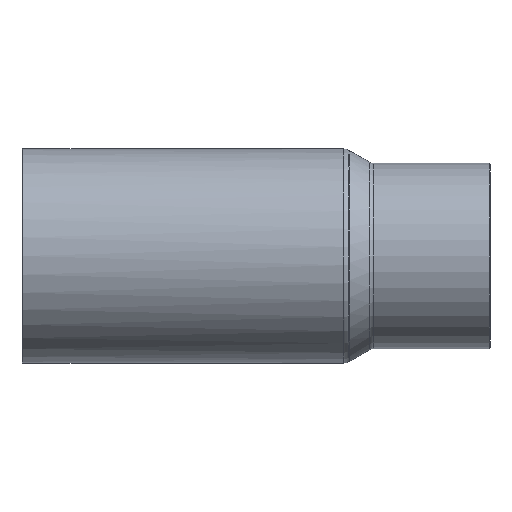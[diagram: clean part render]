
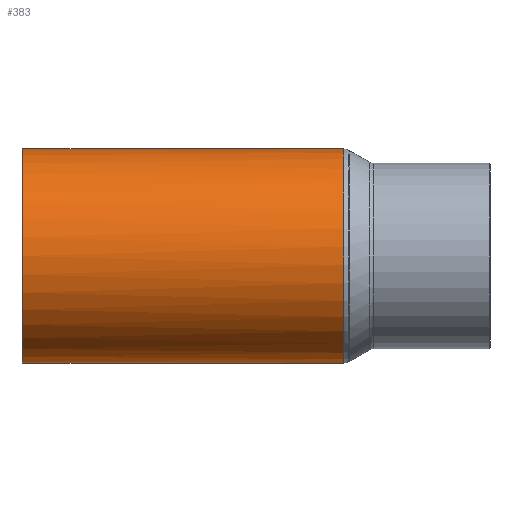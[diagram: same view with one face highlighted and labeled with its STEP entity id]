
A CAD part, front view. The second image highlights one B-rep face of the part: STEP entity #383.
In plain terms, the highlighted cylindrical face has radius 23.45 mm (diameter 46.9 mm), a full revolution.
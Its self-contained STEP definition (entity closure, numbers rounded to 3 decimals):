
#121=CARTESIAN_POINT('',(0.,0.0,-23.45));
#122=VERTEX_POINT('',#121);
#123=CARTESIAN_POINT('',(0.,0.0,23.45));
#124=VERTEX_POINT('',#123);
#309=CARTESIAN_POINT('',(-47.3,23.45,0.));
#310=VERTEX_POINT('',#309);
#311=CARTESIAN_POINT('',(-47.3,0.0,0.0));
#312=DIRECTION('',(-1.0,0.0,0.0));
#313=DIRECTION('',(0.0,-1.0,0.0));
#314=AXIS2_PLACEMENT_3D('',#311,#312,#313);
#315=CIRCLE('',#314,23.45);
#316=EDGE_CURVE('',#310,#310,#315,.T.);
#341=CARTESIAN_POINT('',(3.65,0.0,0.0));
#342=DIRECTION('',(1.0,0.0,0.0));
#343=DIRECTION('',(0.0,1.0,0.0));
#344=AXIS2_PLACEMENT_3D('',#341,#342,#343);
#345=CYLINDRICAL_SURFACE('',#344,23.45);
#346=CARTESIAN_POINT('',(22.845,18.83,13.976));
#347=VERTEX_POINT('',#346);
#348=CARTESIAN_POINT('',(22.845,18.83,-13.976));
#349=VERTEX_POINT('',#348);
#350=CARTESIAN_POINT('',(22.845,0.0,0.0));
#351=DIRECTION('',(1.0,0.0,0.0));
#352=DIRECTION('',(0.0,1.0,0.0));
#353=AXIS2_PLACEMENT_3D('',#350,#351,#352);
#354=CIRCLE('',#353,23.45);
#355=EDGE_CURVE('',#347,#349,#354,.T.);
#356=ORIENTED_EDGE('',*,*,#355,.F.);
#357=CARTESIAN_POINT('',(0.0,0.0,0.0));
#358=DIRECTION('',(-0.636,0.772,0.0));
#359=DIRECTION('',(0.772,0.636,0.0));
#360=AXIS2_PLACEMENT_3D('',#357,#358,#359);
#361=ELLIPSE('',#360,36.869,23.45);
#362=EDGE_CURVE('',#124,#347,#361,.T.);
#363=ORIENTED_EDGE('',*,*,#362,.F.);
#364=CARTESIAN_POINT('',(0.0,0.0,0.0));
#365=DIRECTION('',(0.636,0.772,0.0));
#366=DIRECTION('',(-0.772,0.636,0.0));
#367=AXIS2_PLACEMENT_3D('',#364,#365,#366);
#368=ELLIPSE('',#367,36.869,23.45);
#369=EDGE_CURVE('',#122,#124,#368,.T.);
#370=ORIENTED_EDGE('',*,*,#369,.F.);
#371=CARTESIAN_POINT('',(0.0,0.0,0.0));
#372=DIRECTION('',(-0.636,0.772,0.0));
#373=DIRECTION('',(0.772,0.636,0.0));
#374=AXIS2_PLACEMENT_3D('',#371,#372,#373);
#375=ELLIPSE('',#374,36.869,23.45);
#376=EDGE_CURVE('',#349,#122,#375,.T.);
#377=ORIENTED_EDGE('',*,*,#376,.F.);
#378=EDGE_LOOP('',(#356,#363,#370,#377));
#379=FACE_OUTER_BOUND('',#378,.T.);
#380=ORIENTED_EDGE('',*,*,#316,.F.);
#381=EDGE_LOOP('',(#380));
#382=FACE_BOUND('',#381,.T.);
#383=ADVANCED_FACE('',(#379,#382),#345,.T.);
